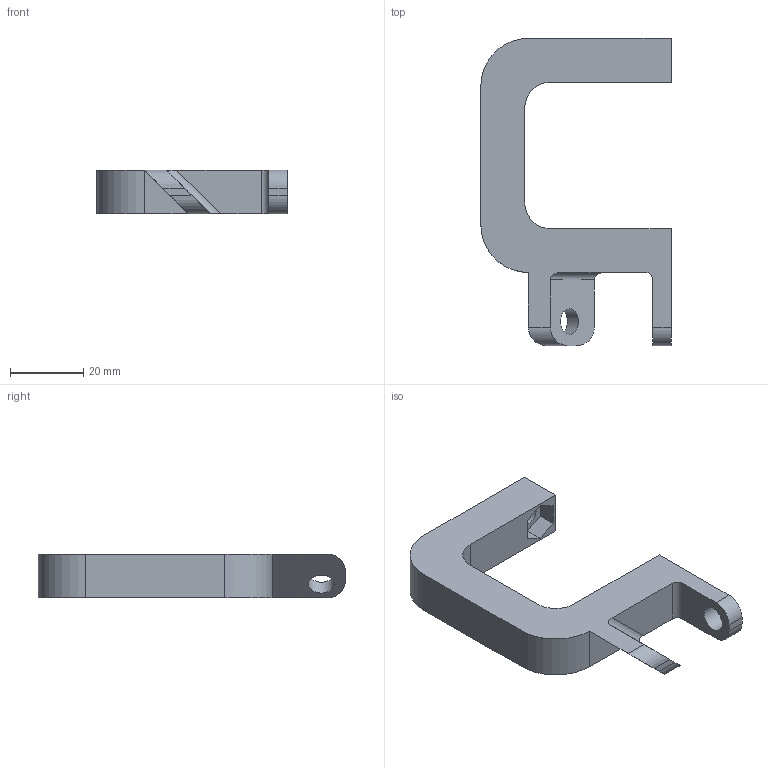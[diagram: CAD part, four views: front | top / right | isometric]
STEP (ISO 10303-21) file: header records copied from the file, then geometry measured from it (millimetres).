
FILE_DESCRIPTION(('STEP AP203'), '1');
FILE_NAME('clamp', '', ('UNSPECIFIED'), ('UNSPECIFIED'), 'ASCON STEP Converter 1.3', 'ASCON Math Kernel', '');
FILE_SCHEMA(('CONFIG_CONTROL_DESIGN'));
Length unit declared in the file: millimetre
Bounding box: 52 x 84 x 12 mm (x, y, z)
Volume: 21614.7 mm3; surface area: 8668.1 mm2
Topology: 1 solids, 1 shells, 36 faces, 98 edges, 65 vertices
Faces by surface type: plane 23, cylinder 13
Full cylindrical faces by diameter (mm): 7 x3
Entity records: 1463 total; most frequent: CARTESIAN_POINT 215, ORIENTED_EDGE 190, DIRECTION 183, EDGE_CURVE 95, LINE 69, VECTOR 69, VERTEX_POINT 65, AXIS2_PLACEMENT_3D 57
